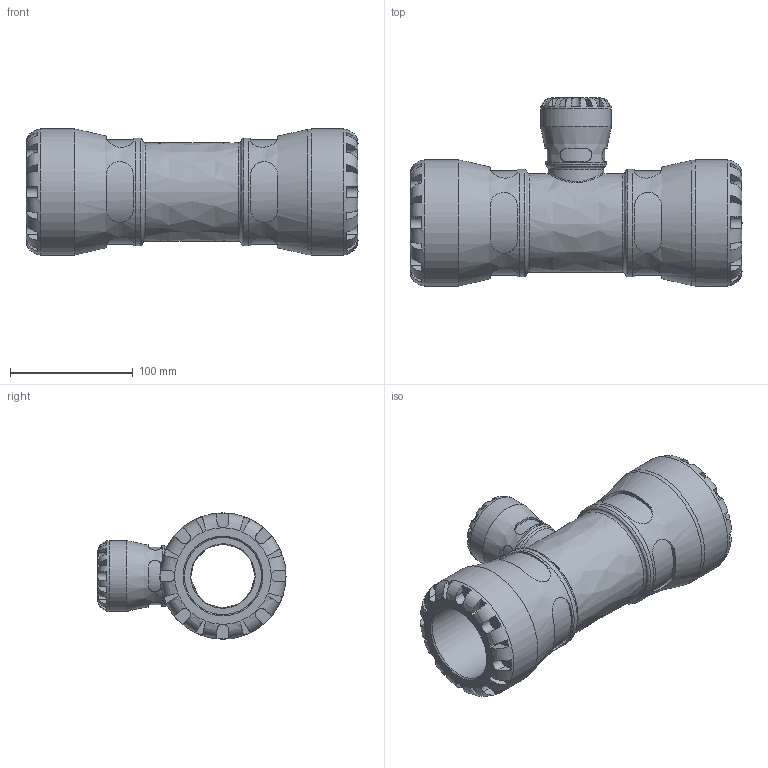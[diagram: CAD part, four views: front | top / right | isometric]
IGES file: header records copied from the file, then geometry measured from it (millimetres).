
Global section: file name: 153400063032; native system: Autodesk Inventor 2019; preprocessor: unknown; author: KIM; date: 20231021.225711; units: millimetre
Bounding box: 271 x 153.5 x 102.95 mm (x, y, z)
Volume: 1071440.2 mm3; surface area: 166619 mm2
Topology: 1 solids, 1 shells, 287 faces, 761 edges, 489 vertices
Faces by surface type: bspline 287
